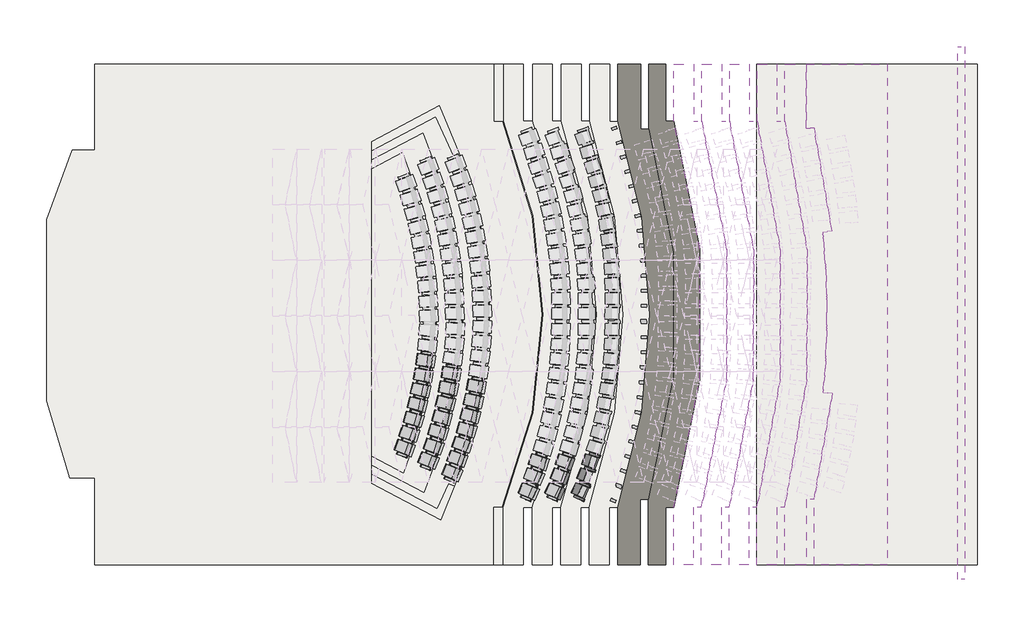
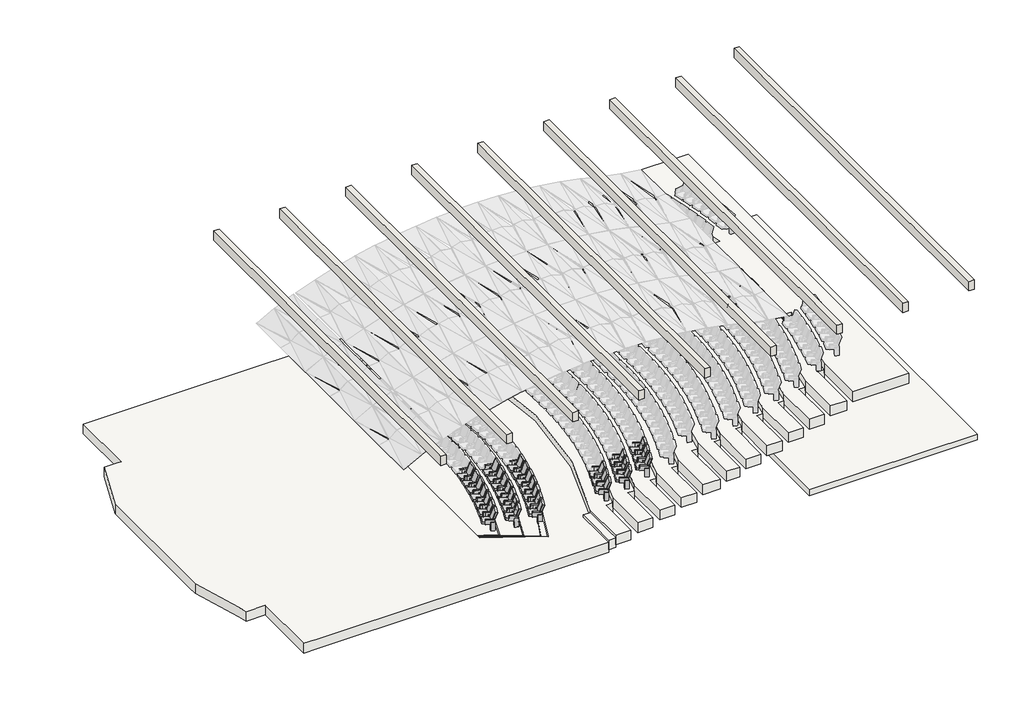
# One storey, part 1 of 5: 30 furniture elements, 19 slabs, 1 wall.
"""IFC4 building model written with IfcOpenShell, lengths in millimetres."""

from ifc_helpers import new_model, si_unit, point, frame, frame_2d, origin, place, context, project, spatial, polyline, circle_curve, trimmed, segment, composite_curve, outline, extrude, transform, mapped, element, save
from ifc_brep_helpers import plane_surface, cylinder_surface, revolved_surface, advanced_brep
from components import flex_6035_revit_flex_6035_revit_dbd431f0, walls_2_walls_2_07e35d9b

model = new_model("IFC4")

# Units and contexts
model_context = context("Model", 3, world=origin())
ifc_project = project(units=[si_unit("LENGTHUNIT", "METRE", prefix="MILLI")], contexts=[model_context])

# Site, building, storey
site = spatial("IfcSite", under=ifc_project)
building = spatial("IfcBuilding", under=site)
storey = spatial("IfcBuildingStorey", under=building, Name="0 WYSOKI PARTER", Elevation=0.0)

# Furniture
placement = place(None, origin())
flex_6035_revit_flex_6035_revit_shape = flex_6035_revit_flex_6035_revit_dbd431f0(model_context)
element("IfcFurniture", 1, ObjectType="flex_6035 revit : flex_6035 revit", at=placement, inside=storey, context=model_context, shape_type="MappedRepresentation", body=[
    mapped(flex_6035_revit_flex_6035_revit_shape, transform((138306.8914362, 51463.6049099, -340.0), x_axis=(-0.3842609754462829, -0.9232245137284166, 0.0), y_axis=(0.9232245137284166, -0.3842609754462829, 0.0), z_axis=(0.0, 0.0, 1.0))),
])
element("IfcFurniture", 2, ObjectType="flex_6035 revit : flex_6035 revit", at=placement, inside=storey, context=model_context, shape_type="MappedRepresentation", body=[
    mapped(flex_6035_revit_flex_6035_revit_shape, transform((138500.1927198, 51993.5391145, -340.0), x_axis=(-0.35215506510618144, -0.9359416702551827, 0.0), y_axis=(0.9359416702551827, -0.35215506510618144, 0.0), z_axis=(0.0, 0.0, 1.0))),
])
element("IfcFurniture", 3, ObjectType="flex_6035 revit : flex_6035 revit", at=placement, inside=storey, context=model_context, shape_type="MappedRepresentation", body=[
    mapped(flex_6035_revit_flex_6035_revit_shape, transform((138683.9323529, 52526.6960684, -340.0), x_axis=(-0.31962920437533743, -0.9475427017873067, 0.0), y_axis=(0.9475427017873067, -0.31962920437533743, 0.0), z_axis=(0.0, 0.0, 1.0))),
])
element("IfcFurniture", 4, ObjectType="flex_6035 revit : flex_6035 revit", at=placement, inside=storey, context=model_context, shape_type="MappedRepresentation", body=[
    mapped(flex_6035_revit_flex_6035_revit_shape, transform((138985.7702734, 53613.6020159, -340.0), x_axis=(-0.2534732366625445, -0.9673423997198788, 0.0), y_axis=(0.9673423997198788, -0.2534732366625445, 0.0), z_axis=(0.0, 0.0, 1.0))),
])
element("IfcFurniture", 5, ObjectType="flex_6035 revit : flex_6035 revit", at=placement, inside=storey, context=model_context, shape_type="MappedRepresentation", body=[
    mapped(flex_6035_revit_flex_6035_revit_shape, transform((139102.5153345, 54165.5460439, -340.0), x_axis=(-0.21992202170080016, -0.9755174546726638, 0.0), y_axis=(0.9755174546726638, -0.21992202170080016, 0.0), z_axis=(0.0, 0.0, 1.0))),
])
element("IfcFurniture", 6, ObjectType="flex_6035 revit : flex_6035 revit", at=placement, inside=storey, context=model_context, shape_type="MappedRepresentation", body=[
    mapped(flex_6035_revit_flex_6035_revit_shape, transform((139209.9615676, 54719.1225661, -340.0), x_axis=(-0.18610854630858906, -0.9825291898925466, 0.0), y_axis=(0.9825291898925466, -0.18610854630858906, 0.0), z_axis=(0.0, 0.0, 1.0))),
])
element("IfcFurniture", 7, ObjectType="flex_6035 revit : flex_6035 revit", at=placement, inside=storey, context=model_context, shape_type="MappedRepresentation", body=[
    mapped(flex_6035_revit_flex_6035_revit_shape, transform((138847.5809617, 53079.6018443, -340.0), x_axis=(-0.2863657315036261, -0.9581203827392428, 0.0), y_axis=(0.9581203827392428, -0.2863657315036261, 0.0), z_axis=(0.0, 0.0, 1.0))),
])
element("IfcFurniture", 8, ObjectType="flex_6035 revit : flex_6035 revit", at=placement, inside=storey, context=model_context, shape_type="MappedRepresentation", body=[
    mapped(flex_6035_revit_flex_6035_revit_shape, transform((137416.6458286, 51925.2859789, -510.0), x_axis=(-0.3665486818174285, -0.9303988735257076, 0.0), y_axis=(0.9303988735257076, -0.3665486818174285, 0.0), z_axis=(0.0, 0.0, 1.0))),
])
element("IfcFurniture", 9, ObjectType="flex_6035 revit : flex_6035 revit", at=placement, inside=storey, context=model_context, shape_type="MappedRepresentation", body=[
    mapped(flex_6035_revit_flex_6035_revit_shape, transform((137608.5867574, 52455.545604, -510.0), x_axis=(-0.33420561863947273, -0.9425001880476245, 0.0), y_axis=(0.9425001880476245, -0.33420561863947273, 0.0), z_axis=(0.0, 0.0, 1.0))),
])
element("IfcFurniture", 10, ObjectType="flex_6035 revit : flex_6035 revit", at=placement, inside=storey, context=model_context, shape_type="MappedRepresentation", body=[
    mapped(flex_6035_revit_flex_6035_revit_shape, transform((137927.1526788, 53537.6668647, -510.0), x_axis=(-0.26836290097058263, -0.9633178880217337, 0.0), y_axis=(0.9633178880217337, -0.26836290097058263, 0.0), z_axis=(0.0, 0.0, 1.0))),
])
element("IfcFurniture", 11, ObjectType="flex_6035 revit : flex_6035 revit", at=placement, inside=storey, context=model_context, shape_type="MappedRepresentation", body=[
    mapped(flex_6035_revit_flex_6035_revit_shape, transform((138052.3967671, 54087.7446207, -510.0), x_axis=(-0.2349417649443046, -0.9720094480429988, 0.0), y_axis=(0.9720094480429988, -0.2349417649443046, 0.0), z_axis=(0.0, 0.0, 1.0))),
])
element("IfcFurniture", 12, ObjectType="flex_6035 revit : flex_6035 revit", at=placement, inside=storey, context=model_context, shape_type="MappedRepresentation", body=[
    mapped(flex_6035_revit_flex_6035_revit_shape, transform((138168.3683123, 54639.5980973, -510.0), x_axis=(-0.2012404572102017, -0.9795418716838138, 0.0), y_axis=(0.9795418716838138, -0.2012404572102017, 0.0), z_axis=(0.0, 0.0, 1.0))),
])
element("IfcFurniture", 13, ObjectType="flex_6035 revit : flex_6035 revit", at=placement, inside=storey, context=model_context, shape_type="MappedRepresentation", body=[
    mapped(flex_6035_revit_flex_6035_revit_shape, transform((138266.7077454, 55195.0184869, -510.0), x_axis=(-0.16729916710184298, -0.9859061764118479, 0.0), y_axis=(0.9859061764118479, -0.16729916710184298, 0.0), z_axis=(0.0, 0.0, 1.0))),
])
element("IfcFurniture", 14, ObjectType="flex_6035 revit : flex_6035 revit", at=placement, inside=storey, context=model_context, shape_type="MappedRepresentation", body=[
    mapped(flex_6035_revit_flex_6035_revit_shape, transform((137780.7436478, 53005.8615762, -510.0), x_axis=(-0.3011092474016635, -0.953589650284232, 0.0), y_axis=(0.953589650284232, -0.3011092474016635, 0.0), z_axis=(0.0, 0.0, 1.0))),
])
element("IfcFurniture", 15, ObjectType="flex_6035 revit : flex_6035 revit", at=placement, inside=storey, context=model_context, shape_type="MappedRepresentation", body=[
    mapped(flex_6035_revit_flex_6035_revit_shape, transform((136524.2455694, 52398.1326173, -680.0), x_axis=(-0.3513253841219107, -0.9362534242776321, 0.0), y_axis=(0.9362534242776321, -0.3513253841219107, 0.0), z_axis=(0.0, 0.0, 1.0))),
])
element("IfcFurniture", 16, ObjectType="flex_6035 revit : flex_6035 revit", at=placement, inside=storey, context=model_context, shape_type="MappedRepresentation", body=[
    mapped(flex_6035_revit_flex_6035_revit_shape, transform((136698.6588073, 52934.579884, -680.0), x_axis=(-0.3187892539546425, -0.9478256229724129, 0.0), y_axis=(0.9478256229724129, -0.3187892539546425, 0.0), z_axis=(0.0, 0.0, 1.0))),
])
element("IfcFurniture", 17, ObjectType="flex_6035 revit : flex_6035 revit", at=placement, inside=storey, context=model_context, shape_type="MappedRepresentation", body=[
    mapped(flex_6035_revit_flex_6035_revit_shape, transform((136863.4022636, 53473.9092674, -680.0), x_axis=(-0.2858729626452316, -0.9582675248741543, 0.0), y_axis=(0.9582675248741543, -0.2858729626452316, 0.0), z_axis=(0.0, 0.0, 1.0))),
])
element("IfcFurniture", 18, ObjectType="flex_6035 revit : flex_6035 revit", at=placement, inside=storey, context=model_context, shape_type="MappedRepresentation", body=[
    mapped(flex_6035_revit_flex_6035_revit_shape, transform((137126.559769, 54570.8225713, -680.0), x_axis=(-0.2190573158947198, -0.9757119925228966, 0.0), y_axis=(0.9757119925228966, -0.2190573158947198, 0.0), z_axis=(0.0, 0.0, 1.0))),
])
element("IfcFurniture", 19, ObjectType="flex_6035 revit : flex_6035 revit", at=placement, inside=storey, context=model_context, shape_type="MappedRepresentation", body=[
    mapped(flex_6035_revit_flex_6035_revit_shape, transform((137223.6853608, 55126.5547359, -680.0), x_axis=(-0.18523763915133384, -0.9826937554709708, 0.0), y_axis=(0.9826937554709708, -0.18523763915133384, 0.0), z_axis=(0.0, 0.0, 1.0))),
])
element("IfcFurniture", 20, ObjectType="flex_6035 revit : flex_6035 revit", at=placement, inside=storey, context=model_context, shape_type="MappedRepresentation", body=[
    mapped(flex_6035_revit_flex_6035_revit_shape, transform((137311.460145, 55683.5890672, -680.0), x_axis=(-0.15119706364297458, -0.9885036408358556, 0.0), y_axis=(0.9885036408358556, -0.15119706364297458, 0.0), z_axis=(0.0, 0.0, 1.0))),
])
element("IfcFurniture", 21, ObjectType="flex_6035 revit : flex_6035 revit", at=placement, inside=storey, context=model_context, shape_type="MappedRepresentation", body=[
    mapped(flex_6035_revit_flex_6035_revit_shape, transform((137007.3679238, 54032.2635929, -680.0), x_axis=(-0.25225576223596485, -0.9676605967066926, 0.0), y_axis=(0.9676605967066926, -0.25225576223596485, 0.0), z_axis=(0.0, 0.0, 1.0))),
])
element("IfcFurniture", 22, ObjectType="flex_6035 revit : flex_6035 revit", at=placement, inside=storey, context=model_context, shape_type="MappedRepresentation", body=[
    mapped(flex_6035_revit_flex_6035_revit_shape, transform((141380.4647791, 51329.6007272, 252.0), x_axis=(-0.3634563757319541, -0.9316112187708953, 0.0), y_axis=(0.9316112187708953, -0.3634563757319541, 0.0), z_axis=(0.0, 0.0, 1.0))),
])
element("IfcFurniture", 23, ObjectType="flex_6035 revit : flex_6035 revit", at=placement, inside=storey, context=model_context, shape_type="MappedRepresentation", body=[
    mapped(flex_6035_revit_flex_6035_revit_shape, transform((141561.831007, 51863.7373566, 252.0), x_axis=(-0.33107329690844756, -0.9436050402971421, 0.0), y_axis=(0.9436050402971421, -0.33107329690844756, 0.0), z_axis=(0.0, 0.0, 1.0))),
])
element("IfcFurniture", 24, ObjectType="flex_6035 revit : flex_6035 revit", at=placement, inside=storey, context=model_context, shape_type="MappedRepresentation", body=[
    mapped(flex_6035_revit_flex_6035_revit_shape, transform((141180.7652881, 50762.1583354, 252.0), x_axis=(-0.396766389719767, -0.9179196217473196, 0.0), y_axis=(0.9179196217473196, -0.396766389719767, 0.0), z_axis=(0.0, 0.0, 1.0))),
])
element("IfcFurniture", 25, ObjectType="flex_6035 revit : flex_6035 revit", at=placement, inside=storey, context=model_context, shape_type="MappedRepresentation", body=[
    mapped(flex_6035_revit_flex_6035_revit_shape, transform((142380.4651401, 51329.6007272, 516.0), x_axis=(-0.3634563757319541, -0.9316112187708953, 0.0), y_axis=(0.9316112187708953, -0.3634563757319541, 0.0), z_axis=(0.0, 0.0, 1.0))),
])
element("IfcFurniture", 26, ObjectType="flex_6035 revit : flex_6035 revit", at=placement, inside=storey, context=model_context, shape_type="MappedRepresentation", body=[
    mapped(flex_6035_revit_flex_6035_revit_shape, transform((142561.831368, 51863.7373566, 516.0), x_axis=(-0.33107329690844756, -0.9436050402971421, 0.0), y_axis=(0.9436050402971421, -0.33107329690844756, 0.0), z_axis=(0.0, 0.0, 1.0))),
])
element("IfcFurniture", 27, ObjectType="flex_6035 revit : flex_6035 revit", at=placement, inside=storey, context=model_context, shape_type="MappedRepresentation", body=[
    mapped(flex_6035_revit_flex_6035_revit_shape, transform((142180.7656491, 50762.1583354, 516.0), x_axis=(-0.396766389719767, -0.9179196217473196, 0.0), y_axis=(0.9179196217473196, -0.396766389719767, 0.0), z_axis=(0.0, 0.0, 1.0))),
])
element("IfcFurniture", 28, ObjectType="flex_6035 revit : flex_6035 revit", at=placement, inside=storey, context=model_context, shape_type="MappedRepresentation", body=[
    mapped(flex_6035_revit_flex_6035_revit_shape, transform((143380.4654673, 51329.6007272, 791.0), x_axis=(-0.3634563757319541, -0.9316112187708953, 0.0), y_axis=(0.9316112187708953, -0.3634563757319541, 0.0), z_axis=(0.0, 0.0, 1.0))),
])
element("IfcFurniture", 29, ObjectType="flex_6035 revit : flex_6035 revit", at=placement, inside=storey, context=model_context, shape_type="MappedRepresentation", body=[
    mapped(flex_6035_revit_flex_6035_revit_shape, transform((143561.8316952, 51863.7373566, 791.0), x_axis=(-0.33107329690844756, -0.9436050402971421, 0.0), y_axis=(0.9436050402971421, -0.33107329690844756, 0.0), z_axis=(0.0, 0.0, 1.0))),
])
element("IfcFurniture", 30, ObjectType="flex_6035 revit : flex_6035 revit", at=placement, inside=storey, context=model_context, shape_type="MappedRepresentation", body=[
    mapped(flex_6035_revit_flex_6035_revit_shape, transform((143180.7659763, 50762.1583354, 791.0), x_axis=(-0.396766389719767, -0.9179196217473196, 0.0), y_axis=(0.9179196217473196, -0.396766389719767, 0.0), z_axis=(0.0, 0.0, 1.0))),
])

# Slabs
element("IfcSlab", 31, ObjectType="Strop 30 cm", at=placement, inside=storey, context=model_context, shape_type="SweptSolid", body=[
    extrude(outline(polyline([(149719.8675635, 66815.8005963), (157993.8729089, 66815.8005963), (157993.8729089, 48015.8005963), (149719.8675635, 48015.8005963), (149719.8675635, 66815.8005963)])), frame((0.0, 0.0, -1020.0), z_axis=(0.0, 0.0, 1.0), x_axis=(1.0, 0.0, 0.0)), (0.0, 0.0, 1.0), 300.0),
])
element("IfcSlab", 32, ObjectType="Strop 50 cm", at=placement, inside=storey, context=model_context, shape_type="AdvancedBrep", body=[
    advanced_brep(
    [(124863.8729089, 48015.8005963, -500.0), (124863.8729089, 51285.8005963, -500.0), (123927.3541376, 51285.8005963, -500.0), (123795.2039669, 51725.8005963, -500.0), (123063.8729089, 54160.8005963, -500.0), (123063.8729089, 54669.8605963, -500.0), (123063.8729089, 60980.5910359, -500.0), (124032.8926247, 63590.8005963, -500.0), (124715.5721701, 63590.8005963, -500.0), (124863.8729089, 63590.8005963, -500.0), (124863.8729089, 66815.8005963, -500.0), (125453.8729089, 66815.8005963, -500.0), (131133.8729089, 66815.8005963, -500.0), (131753.8729089, 66815.8005963, -500.0), (133003.8729089, 66815.8005963, -500.0), (133153.8729089, 66815.8005963, -500.0), (139864.830476, 66815.8005963, -500.0), (139864.830476, 64665.8005963, -500.0), (140154.3224305, 64665.8005963, -500.0), (140136.81884, 50165.8005963, -500.0), (139852.1865968, 50165.8005963, -500.0), (139852.1865968, 48015.8005963, -500.0), (133153.8729089, 48015.8005963, -500.0), (133003.8729089, 48015.8005963, -500.0), (131733.8729089, 48015.8005963, -500.0), (131133.8729089, 48015.8005963, -500.0), (125503.8729089, 48015.8005963, -500.0), (135270.2729089, 51071.7474551, -500.0), (137847.8229718, 49700.5398102, -500.0), (137803.2953199, 65255.8839435, -500.0), (135270.2729089, 63908.3641632, -500.0), (124863.8729089, 48015.8005963, 0.0), (125503.8729089, 48015.8005963, 0.0), (131133.8729089, 48015.8005963, 0.0), (131733.8729089, 48015.8005963, 0.0), (133003.8729089, 48015.8005963, 0.0), (133153.8729089, 48015.8005963, 0.0), (139852.1865968, 48015.8005963, 0.0), (139852.1865968, 50165.8005963, 0.0), (140136.81884, 50165.8005963, 0.0), (140154.3224305, 64665.8005963, 0.0), (139864.830476, 64665.8005963, 0.0), (139864.830476, 66815.8005963, 0.0), (133153.8729089, 66815.8005963, 0.0), (133003.8729089, 66815.8005963, 0.0), (131753.8729089, 66815.8005963, 0.0), (131133.8729089, 66815.8005963, 0.0), (125453.8729089, 66815.8005963, 0.0), (124863.8729089, 66815.8005963, 0.0), (124863.8729089, 63590.8005963, 0.0), (124715.5721701, 63590.8005963, 0.0), (124032.8926247, 63590.8005963, 0.0), (123063.8729089, 60980.5910359, 0.0), (123063.8729089, 54669.8605963, 0.0), (123063.8729089, 54160.8005963, 0.0), (123795.2039669, 51725.8005963, 0.0), (123927.3541376, 51285.8005963, 0.0), (124863.8729089, 51285.8005963, 0.0), (135270.2729089, 51071.7474551, 0.0), (135270.2729089, 63908.3641632, 0.0), (137803.2953199, 65255.8839435, 0.0), (137847.8229718, 49700.5398102, 0.0)],
    [
        (0, 1),
        (1, 2),
        (2, 3),
        (3, 4),
        (4, 5),
        (5, 6),
        (6, 7),
        (7, 8),
        (8, 9),
        (9, 10),
        (10, 11),
        (11, 12),
        (12, 13),
        (13, 14),
        (14, 15),
        (15, 16),
        (16, 17),
        (17, 18),
        (18, 19, circle_curve(frame((123353.8729089, 57436.0705963, -500.0), z_axis=(0.0, 0.0, -1.0), x_axis=(1.0, 0.0, 0.0)), 18290.0)),
        (19, 20),
        (20, 21),
        (21, 22),
        (22, 23),
        (23, 24),
        (24, 25),
        (25, 26),
        (26, 0),
        (27, 28),
        (28, 29, circle_curve(frame((123103.8729089, 57436.0705963, -500.0), z_axis=(0.0, 0.0, 1.0), x_axis=(1.0, 0.0, 0.0)), 16650.0)),
        (29, 30),
        (30, 27),
        (31, 32),
        (32, 33),
        (33, 34),
        (34, 35),
        (35, 36),
        (36, 37),
        (37, 38),
        (38, 39),
        (39, 40, circle_curve(frame((123353.8729089, 57436.0705963, 0.0), z_axis=(0.0, 0.0, 1.0), x_axis=(1.0, 0.0, 0.0)), 18290.0)),
        (40, 41),
        (41, 42),
        (42, 43),
        (43, 44),
        (44, 45),
        (45, 46),
        (46, 47),
        (47, 48),
        (48, 49),
        (49, 50),
        (50, 51),
        (51, 52),
        (52, 53),
        (53, 54),
        (54, 55),
        (55, 56),
        (56, 57),
        (57, 31),
        (58, 59),
        (59, 60),
        (60, 61, circle_curve(frame((123103.8729089, 57436.0705963, 0.0), z_axis=(0.0, 0.0, -1.0), x_axis=(1.0, 0.0, 0.0)), 16650.0)),
        (61, 58),
        (21, 37),
        (31, 0),
        (10, 48),
        (42, 16),
        (41, 17),
        (40, 18),
        (39, 19),
        (38, 20),
        (27, 58),
        (61, 28),
        (60, 29),
        (59, 30),
        (57, 1),
        (56, 2),
        (54, 4),
        (52, 6),
        (51, 7),
        (49, 9),
    ],
    [
        plane_surface(frame((124863.8729089, 51285.8005963, -500.0), z_axis=(0.0, 0.0, -1.0), x_axis=(0.0, 1.0, 0.0))),
        plane_surface(frame((124863.8729089, 51285.8005963, 0.0), z_axis=(0.0, 0.0, 1.0), x_axis=(0.0, -1.0, 0.0))),
        plane_surface(frame((139852.1865968, 48015.8005963, -500.0), z_axis=(0.0, -1.0, 0.0), x_axis=(0.0, 0.0, 1.0))),
        plane_surface(frame((124863.8729089, 66815.8005963, -500.0), z_axis=(0.0, 1.0, 0.0), x_axis=(0.0, 0.0, 1.0))),
        plane_surface(frame((139864.830476, 66815.8005963, -500.0), z_axis=(1.0, 0.0, 0.0), x_axis=(0.0, 0.0, 1.0))),
        plane_surface(frame((139864.830476, 64665.8005963, -500.0), z_axis=(0.0, 1.0, 0.0), x_axis=(0.0, 0.0, 1.0))),
        cylinder_surface(frame((123353.8729089, 57436.0705963, 0.0), z_axis=(0.0, 0.0, -1.0), x_axis=(1.0, 0.0, 0.0)), 18290.0),
        plane_surface(frame((140136.81884, 50165.8005963, -500.0), z_axis=(0.0, -1.0, 0.0), x_axis=(0.0, 0.0, 1.0))),
        plane_surface(frame((139852.1865968, 50165.8005963, -500.0), z_axis=(1.0, 0.0, 0.0), x_axis=(0.0, 0.0, 1.0))),
        plane_surface(frame((135270.2729089, 51071.7474551, -500.0), z_axis=(0.46965845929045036, 0.8828481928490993, 0.0), x_axis=(0.0, 0.0, 1.0))),
        revolved_surface(polyline([(139753.8729089, 57436.0705963, 0.0), (139753.8729089, 57436.0705963, -500.0)]), (123103.8729089, 57436.0705963, 0.0), (0.0, 0.0, 1.0)),
        plane_surface(frame((137803.2953199, 65255.8839435, -500.0), z_axis=(0.4696584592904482, -0.8828481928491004, 0.0), x_axis=(0.0, 0.0, 1.0))),
        plane_surface(frame((135270.2729089, 63908.3641632, -500.0), z_axis=(1.0, 0.0, 0.0), x_axis=(0.0, 0.0, 1.0))),
        plane_surface(frame((124863.8729089, 48015.8005963, -500.0), z_axis=(-1.0, 0.0, 0.0), x_axis=(0.0, 0.0, 1.0))),
        plane_surface(frame((124863.8729089, 51285.8005963, -500.0), z_axis=(0.0, -1.0, 0.0), x_axis=(0.0, 0.0, 1.0))),
        plane_surface(frame((123927.3541376, 51285.8005963, -500.0), z_axis=(-0.9577362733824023, -0.2876477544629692, 0.0), x_axis=(0.0, 0.0, 1.0))),
        plane_surface(frame((123063.8729089, 54160.8005963, -500.0), z_axis=(-1.0, 0.0, 0.0), x_axis=(0.0, 0.0, 1.0))),
        plane_surface(frame((123063.8729089, 60980.5910359, -500.0), z_axis=(-0.9374823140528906, 0.34803291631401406, 0.0), x_axis=(0.0, 0.0, 1.0))),
        plane_surface(frame((124032.8926247, 63590.8005963, -500.0), z_axis=(0.0, 1.0, 0.0), x_axis=(0.0, 0.0, 1.0))),
        plane_surface(frame((124863.8729089, 63590.8005963, -500.0), z_axis=(-1.0, 0.0, 0.0), x_axis=(0.0, 0.0, 1.0))),
    ],
    [
        (0, [[1, 2, 3, 4, 5, 6, 7, 8, 9, 10, 11, 12, 13, 14, 15, 16, 17, 18, 19, 20, 21, 22, 23, 24, 25, 26, 27], [28, 29, 30, 31]]),
        (1, [[32, 33, 34, 35, 36, 37, 38, 39, 40, 41, 42, 43, 44, 45, 46, 47, 48, 49, 50, 51, 52, 53, 54, 55, 56, 57, 58], [59, 60, 61, 62]]),
        (2, [[-27, -26, -25, -24, -23, -22, 63, -37, -36, -35, -34, -33, -32, 64]]),
        (3, [[-16, -15, -14, -13, -12, -11, 65, -48, -47, -46, -45, -44, -43, 66]]),
        (4, [[-17, -66, -42, 67]]),
        (5, [[-18, -67, -41, 68]]),
        (6, [[-19, -68, -40, 69]]),
        (7, [[-20, -69, -39, 70]]),
        (8, [[-21, -70, -38, -63]]),
        (9, [[-28, 71, -62, 72]]),
        (10, [[-29, -72, -61, 73]]),
        (11, [[-30, -73, -60, 74]]),
        (12, [[-31, -74, -59, -71]]),
        (13, [[-1, -64, -58, 75]]),
        (14, [[-2, -75, -57, 76]]),
        (15, [[-4, -3, -76, -56, -55, 77]]),
        (16, [[-6, -5, -77, -54, -53, 78]]),
        (17, [[-7, -78, -52, 79]]),
        (18, [[-9, -8, -79, -51, -50, 80]]),
        (19, [[-10, -80, -49, -65]]),
    ],
),
])
element("IfcSlab", 33, ObjectType="Strop 50 cm", at=placement, inside=storey, context=model_context, shape_type="SweptSolid", body=[
    extrude(outline(composite_curve([segment(polyline([(136475.1755106, 51450.1899815), (135270.2729089, 52091.1752653), (135270.2729089, 62888.9363529), (136435.8620926, 63509.0076456)]), True, "CONTINUOUS"), segment(trimmed(circle_curve(frame_2d((123103.8729089, 57436.0705963)), 14650.0), [point((136435.8620926, 63509.0076456))], [point((136475.1755106, 51450.1899815))], False, "CARTESIAN"), True, "CONTINUOUS")], self_intersect=False)), frame((0.0, 0.0, -1180.0), z_axis=(0.0, 0.0, 1.0), x_axis=(1.0, 0.0, 0.0)), (0.0, 0.0, 1.0), 500.0),
])
element("IfcSlab", 34, ObjectType="Strop 50 cm", at=placement, inside=storey, context=model_context, shape_type="SweptSolid", body=[
    extrude(outline(composite_curve([segment(polyline([(137233.367196, 50707.0371448), (135270.2729089, 51751.3659952), (135270.2729089, 52091.1752653), (136475.1755106, 51450.1899815)]), True, "CONTINUOUS"), segment(trimmed(circle_curve(frame_2d((123103.8729089, 57436.0705963)), 14650.0), [point((136475.1755106, 51450.1899815))], [point((136435.8620926, 63509.0076456))], True, "CARTESIAN"), True, "CONTINUOUS"), segment(polyline([(136435.8620926, 63509.0076456), (135270.2729089, 62888.9363529), (135270.2729089, 63228.745623), (137192.084304, 64251.1127595)]), True, "CONTINUOUS"), segment(trimmed(circle_curve(frame_2d((123103.8729089, 57436.0705963)), 15650.0), [point((137192.084304, 64251.1127595))], [point((137233.367196, 50707.0371448))], False, "CARTESIAN"), True, "CONTINUOUS")], self_intersect=False)), frame((0.0, 0.0, -1010.0), z_axis=(0.0, 0.0, 1.0), x_axis=(1.0, 0.0, 0.0)), (0.0, 0.0, 1.0), 500.0),
])
element("IfcSlab", 35, ObjectType="Strop 50 cm", at=placement, inside=storey, context=model_context, shape_type="SweptSolid", body=[
    extrude(outline(composite_curve([segment(trimmed(circle_curve(frame_2d((123103.8729089, 57436.0705963)), 16650.0), [point((137803.2953199, 65255.8839435))], [point((137847.8229718, 49700.5398102))], False, "CARTESIAN"), True, "CONTINUOUS"), segment(polyline([(137847.8229718, 49700.5398102), (135270.2729089, 51071.7474551), (135270.2729089, 51751.3659952), (137233.367196, 50707.0371448)]), True, "CONTINUOUS"), segment(trimmed(circle_curve(frame_2d((123103.8729089, 57436.0705963)), 15650.0), [point((137233.367196, 50707.0371448))], [point((137192.084304, 64251.1127595))], True, "CARTESIAN"), True, "CONTINUOUS"), segment(polyline([(137192.084304, 64251.1127595), (135270.2729089, 63228.745623), (135270.2729089, 63908.3641632), (137803.2953199, 65255.8839435)]), True, "CONTINUOUS")], self_intersect=False)), frame((0.0, 0.0, -840.0), z_axis=(0.0, 0.0, 1.0), x_axis=(1.0, 0.0, 0.0)), (0.0, 0.0, 1.0), 500.0),
])
element("IfcSlab", 36, ObjectType="Strop 50 cm", at=placement, inside=storey, context=model_context, shape_type="SweptSolid", body=[
    extrude(outline(composite_curve([segment(trimmed(circle_curve(frame_2d((123103.8729089, 57436.0705963)), 16650.0), [point((138436.8577178, 50945.9182985))], [point((137847.8229718, 49700.5398102))], False, "CARTESIAN"), True, "CONTINUOUS"), segment(polyline([(137847.8229718, 49700.5398102), (135270.2729089, 51071.7474551), (135270.2729089, 51411.5567251), (137719.8870418, 50108.4085635)]), True, "CONTINUOUS"), segment(trimmed(circle_curve(frame_2d((123103.8729089, 57436.0705963)), 16350.0), [point((137719.8870418, 50108.4085635))], [point((138159.8852765, 51061.1987085))], True, "CARTESIAN"), True, "CONTINUOUS"), segment(polyline([(138159.8852765, 51061.1987085), (138436.8577178, 50945.9182985)]), True, "CONTINUOUS")], self_intersect=False)), frame((0.0, 0.0, -675.0), z_axis=(0.0, 0.0, 1.0), x_axis=(1.0, 0.0, 0.0)), (0.0, 0.0, 1.0), 500.0),
    extrude(outline(composite_curve([segment(trimmed(circle_curve(frame_2d((123103.8729089, 57436.0705963)), 16650.0), [point((137803.2953199, 65255.8839435))], [point((138622.3387521, 63469.2884668))], False, "CARTESIAN"), True, "CONTINUOUS"), segment(polyline([(138622.3387521, 63469.2884668), (138342.7267549, 63360.5818385)]), True, "CONTINUOUS"), segment(trimmed(circle_curve(frame_2d((123103.8729089, 57436.0705963)), 16350.0), [point((138342.7267549, 63360.5818385))], [point((137676.9083378, 64848.839201))], True, "CARTESIAN"), True, "CONTINUOUS"), segment(polyline([(137676.9083378, 64848.839201), (135270.2729089, 63568.5548931), (135270.2729089, 63908.3641632), (137803.2953199, 65255.8839435)]), True, "CONTINUOUS")], self_intersect=False)), frame((0.0, 0.0, -675.0), z_axis=(0.0, 0.0, 1.0), x_axis=(1.0, 0.0, 0.0)), (0.0, 0.0, 1.0), 500.0),
])
element("IfcSlab", 37, ObjectType="Strop 50 cm", at=placement, inside=storey, context=model_context, shape_type="SweptSolid", body=[
    extrude(outline(composite_curve([segment(polyline([(140946.1252529, 50165.8005963), (140946.1252529, 48015.8005963), (140202.1865968, 48015.8005963), (140202.1865968, 50165.8005963)]), True, "CONTINUOUS"), segment(trimmed(circle_curve(frame_2d((123353.8729089, 57436.0705963)), 18350.0), [point((140202.1865968, 50165.8005963))], [point((140214.830476, 64676.9690158))], True, "CARTESIAN"), True, "CONTINUOUS"), segment(polyline([(140214.830476, 64676.9690158), (140214.830476, 66815.8005963), (140958.769132, 66815.8005963), (140958.769132, 64665.8005963), (141302.5080695, 64665.8005963)]), True, "CONTINUOUS"), segment(trimmed(circle_curve(frame_2d((123353.8729089, 57436.0705963)), 19350.0), [point((141302.5080695, 64665.8005963))], [point((141286.1252529, 50165.8005963))], False, "CARTESIAN"), True, "CONTINUOUS"), segment(polyline([(141286.1252529, 50165.8005963), (140946.1252529, 50165.8005963)]), True, "CONTINUOUS")], self_intersect=False)), frame((0.0, 0.0, -248.0), z_axis=(0.0, 0.0, 1.0), x_axis=(1.0, 0.0, 0.0)), (0.0, 0.0, 1.0), 500.0),
])
element("IfcSlab", 38, ObjectType="Strop 50 cm", at=placement, inside=storey, context=model_context, shape_type="SweptSolid", body=[
    extrude(outline(composite_curve([segment(polyline([(142043.5069266, 64665.8005963), (142376.3202837, 64665.8005963)]), True, "CONTINUOUS"), segment(trimmed(circle_curve(frame_2d((123353.8729089, 57436.0705963)), 20350.0), [point((142376.3202837, 64665.8005963))], [point((142360.8630475, 50165.8005963))], False, "CARTESIAN"), True, "CONTINUOUS"), segment(polyline([(142360.8630475, 50165.8005963), (142030.8630475, 50165.8005963), (142030.8630475, 48015.8005963), (141286.1252529, 48015.8005963), (141286.1252529, 50165.8005963)]), True, "CONTINUOUS"), segment(trimmed(circle_curve(frame_2d((123353.8729089, 57436.0705963)), 19350.0), [point((141286.1252529, 50165.8005963))], [point((141298.769132, 64675.0760213))], True, "CARTESIAN"), True, "CONTINUOUS"), segment(polyline([(141298.769132, 64675.0760213), (141298.769132, 66815.8005963), (142043.5069266, 66815.8005963), (142043.5069266, 64665.8005963)]), True, "CONTINUOUS")], self_intersect=False)), frame((0.0, 0.0, 16.0), z_axis=(0.0, 0.0, 1.0), x_axis=(1.0, 0.0, 0.0)), (0.0, 0.0, 1.0), 500.0),
])
element("IfcSlab", 39, ObjectType="Strop 50 cm", at=placement, inside=storey, context=model_context, shape_type="SweptSolid", body=[
    extrude(outline(composite_curve([segment(trimmed(circle_curve(frame_2d((123353.8729089, 57436.0705963)), 21350.0), [point((143442.5140807, 64665.8005963))], [point((143427.8778438, 50165.8005963))], False, "CARTESIAN"), True, "CONTINUOUS"), segment(polyline([(143427.8778438, 50165.8005963), (143107.8778438, 50165.8005963), (143107.8778438, 48015.8005963), (142360.8630475, 48015.8005963), (142360.8630475, 50165.8005963)]), True, "CONTINUOUS"), segment(trimmed(circle_curve(frame_2d((123353.8729089, 57436.0705963)), 20350.0), [point((142360.8630475, 50165.8005963))], [point((142373.5069266, 64673.1986063))], True, "CARTESIAN"), True, "CONTINUOUS"), segment(polyline([(142373.5069266, 64673.1986063), (142373.5069266, 66815.8005963), (143120.521723, 66815.8005963), (143120.521723, 64665.8005963), (143442.5140807, 64665.8005963)]), True, "CONTINUOUS")], self_intersect=False)), frame((0.0, 0.0, 291.0), z_axis=(0.0, 0.0, 1.0), x_axis=(1.0, 0.0, 0.0)), (0.0, 0.0, 1.0), 500.0),
])
element("IfcSlab", 40, ObjectType="Strop 50 cm", at=placement, inside=storey, context=model_context, shape_type="SweptSolid", body=[
    extrude(outline(composite_curve([segment(trimmed(circle_curve(frame_2d((123353.8729089, 57436.0705963)), 21350.0), [point((143427.8778438, 50165.8005963))], [point((143440.521723, 64671.3342004))], True, "CARTESIAN"), True, "CONTINUOUS"), segment(polyline([(143440.521723, 64671.3342004), (143440.521723, 66815.8005963), (144190.9832854, 66815.8005963), (144190.9832854, 64664.3596942), (144502.7342664, 64664.3596942)]), True, "CONTINUOUS"), segment(trimmed(circle_curve(frame_2d((123353.8729089, 57436.0705963)), 22350.0), [point((144502.7342664, 64664.3596942))], [point((144488.8350226, 50167.2414984))], False, "CARTESIAN"), True, "CONTINUOUS"), segment(polyline([(144488.8350226, 50167.2414984), (144178.3394063, 50167.2414984), (144178.3394063, 48015.8005963), (143427.8778438, 48015.8005963), (143427.8778438, 50165.8005963)]), True, "CONTINUOUS")], self_intersect=False)), frame((0.0, 0.0, 574.0), z_axis=(0.0, 0.0, 1.0), x_axis=(1.0, 0.0, 0.0)), (0.0, 0.0, 1.0), 500.0),
])
element("IfcSlab", 41, ObjectType="Strop 50 cm", at=placement, inside=storey, context=model_context, shape_type="SweptSolid", body=[
    extrude(outline(composite_curve([segment(trimmed(circle_curve(frame_2d((123353.8729089, 57436.0705963)), 22350.0), [point((144488.3394063, 50165.8005963))], [point((144500.9832854, 64669.4807689))], True, "CARTESIAN"), True, "CONTINUOUS"), segment(polyline([(144500.9832854, 64669.4807689), (144500.9832854, 66815.8005963), (145351.3769603, 66815.8005963), (145351.3769603, 64367.435042), (145651.3769603, 64367.435042)]), True, "CONTINUOUS"), segment(trimmed(circle_curve(frame_2d((123353.8729089, 57436.0705963)), 23350.0), [point((145651.3769603, 64367.435042))], [point((145638.7330811, 50464.16217))], False, "CARTESIAN"), True, "CONTINUOUS"), segment(polyline([(145638.7330811, 50464.16217), (145338.7330811, 50464.16217), (145338.7330811, 48015.8005963), (144488.3394063, 48015.8005963), (144488.3394063, 50165.8005963)]), True, "CONTINUOUS")], self_intersect=False)), frame((0.0, 0.0, 867.0), z_axis=(0.0, 0.0, 1.0), x_axis=(1.0, 0.0, 0.0)), (0.0, 0.0, 1.0), 500.0),
])
element("IfcSlab", 42, ObjectType="Strop 50 cm", at=placement, inside=storey, context=model_context, shape_type="SweptSolid", body=[
    extrude(outline(composite_curve([segment(polyline([(146305.8299046, 66815.8005963), (146305.8299046, 64665.8005963), (146605.8299046, 64665.8005963)]), True, "CONTINUOUS"), segment(trimmed(circle_curve(frame_2d((123353.8729089, 57436.0705963)), 24350.0), [point((146605.8299046, 64665.8005963))], [point((146593.1860254, 50165.8005963))], False, "CARTESIAN"), True, "CONTINUOUS"), segment(polyline([(146593.1860254, 50165.8005963), (146293.1860254, 50165.8005963), (146293.1860254, 48015.8005963), (145638.7330811, 48015.8005963), (145638.7330811, 50464.16217)]), True, "CONTINUOUS"), segment(trimmed(circle_curve(frame_2d((123353.8729089, 57436.0705963)), 23350.0), [point((145638.7330811, 50464.16217))], [point((145651.3769603, 64367.435042))], True, "CARTESIAN"), True, "CONTINUOUS"), segment(polyline([(145651.3769603, 64367.435042), (145651.3769603, 66815.8005963), (146305.8299046, 66815.8005963)]), True, "CONTINUOUS")], self_intersect=False)), frame((0.0, 0.0, 1168.0), z_axis=(0.0, 0.0, 1.0), x_axis=(1.0, 0.0, 0.0)), (0.0, 0.0, 1.0), 500.0),
])
element("IfcSlab", 43, ObjectType="Strop 50 cm", at=placement, inside=storey, context=model_context, shape_type="SweptSolid", body=[
    extrude(outline(composite_curve([segment(trimmed(circle_curve(frame_2d((123353.8729089, 57436.0705963)), 24350.0), [point((146593.1860254, 50165.8005963))], [point((146605.8299046, 64665.8005963))], True, "CARTESIAN"), True, "CONTINUOUS"), segment(polyline([(146605.8299046, 64665.8005963), (146605.8299046, 66815.8005963), (147351.6083902, 66815.8005963), (147351.6083902, 64665.8005963), (147651.0641895, 64665.8005963)]), True, "CONTINUOUS"), segment(trimmed(circle_curve(frame_2d((123353.8729089, 57436.0705963)), 25350.0), [point((147651.0641895, 64665.8005963))], [point((147638.9645111, 50165.8005963))], False, "CARTESIAN"), True, "CONTINUOUS"), segment(polyline([(147638.9645111, 50165.8005963), (147338.9645111, 50165.8005963), (147338.9645111, 48015.8005963), (146593.1860254, 48015.8005963), (146593.1860254, 50165.8005963)]), True, "CONTINUOUS")], self_intersect=False)), frame((0.0, 0.0, 1477.0), z_axis=(0.0, 0.0, 1.0), x_axis=(1.0, 0.0, 0.0)), (0.0, 0.0, 1.0), 500.0),
])
element("IfcSlab", 44, ObjectType="Strop 50 cm", at=placement, inside=storey, context=model_context, shape_type="SweptSolid", body=[
    extrude(outline(composite_curve([segment(trimmed(circle_curve(frame_2d((123353.8729089, 57436.0705963)), 25350.0), [point((147638.9645111, 50165.8005963))], [point((147651.6083902, 64663.9714312))], True, "CARTESIAN"), True, "CONTINUOUS"), segment(polyline([(147651.6083902, 64663.9714312), (147651.6083902, 66815.8005963), (148393.6894318, 66815.8005963), (148393.6894318, 64665.8005963), (148692.6476253, 64665.8005963)]), True, "CONTINUOUS"), segment(trimmed(circle_curve(frame_2d((123353.8729089, 57436.0705963)), 26350.0), [point((148692.6476253, 64665.8005963))], [point((148681.0455527, 50165.8005963))], False, "CARTESIAN"), True, "CONTINUOUS"), segment(polyline([(148681.0455527, 50165.8005963), (148381.0455527, 50165.8005963), (148381.0455527, 48015.8005963), (147638.9645111, 48015.8005963), (147638.9645111, 50165.8005963)]), True, "CONTINUOUS")], self_intersect=False)), frame((0.0, 0.0, 1793.0), z_axis=(0.0, 0.0, 1.0), x_axis=(1.0, 0.0, 0.0)), (0.0, 0.0, 1.0), 500.0),
])
element("IfcSlab", 45, ObjectType="Strop 50 cm", at=placement, inside=storey, context=model_context, shape_type="SweptSolid", body=[
    extrude(outline(composite_curve([segment(trimmed(circle_curve(frame_2d((123353.8729089, 57436.0705963)), 26350.0), [point((148681.0455527, 50165.8005963))], [point((148693.6894318, 64662.1482727))], True, "CARTESIAN"), True, "CONTINUOUS"), segment(polyline([(148693.6894318, 64662.1482727), (148693.6894318, 66815.8005963), (149432.5114427, 66815.8005963), (149432.5114427, 64665.8005963), (149731.0127108, 64665.8005963)]), True, "CONTINUOUS"), segment(trimmed(circle_curve(frame_2d((123353.8729089, 57436.0705963)), 27350.0), [point((149731.0127108, 64665.8005963))], [point((149719.8675635, 50165.8005963))], False, "CARTESIAN"), True, "CONTINUOUS"), segment(polyline([(149719.8675635, 50165.8005963), (149419.8675635, 50165.8005963), (149419.8675635, 48015.8005963), (148681.0455527, 48015.8005963), (148681.0455527, 50165.8005963)]), True, "CONTINUOUS")], self_intersect=False)), frame((0.0, 0.0, 2116.0), z_axis=(0.0, 0.0, 1.0), x_axis=(1.0, 0.0, 0.0)), (0.0, 0.0, 1.0), 500.0),
])
element("IfcSlab", 46, ObjectType="Strop 50 cm", at=placement, inside=storey, context=model_context, shape_type="SweptSolid", body=[
    extrude(outline(composite_curve([segment(polyline([(150468.4450802, 66815.8005963), (150468.4450802, 64665.8005963), (150766.5251726, 64665.8005963)]), True, "CONTINUOUS"), segment(trimmed(circle_curve(frame_2d((123353.8729089, 57436.0705963)), 28350.0), [point((150766.5251726, 64665.8005963))], [point((150755.801201, 50165.8005963))], False, "CARTESIAN"), True, "CONTINUOUS"), segment(polyline([(150755.801201, 50165.8005963), (150455.801201, 50165.8005963), (150455.801201, 48015.8005963), (149719.8675635, 48015.8005963), (149719.8675635, 50165.8005963)]), True, "CONTINUOUS"), segment(trimmed(circle_curve(frame_2d((123353.8729089, 57436.0705963)), 27350.0), [point((149719.8675635, 50165.8005963))], [point((149732.5114427, 64660.3303581))], True, "CARTESIAN"), True, "CONTINUOUS"), segment(polyline([(149732.5114427, 64660.3303581), (149732.5114427, 66815.8005963), (150468.4450802, 66815.8005963)]), True, "CONTINUOUS")], self_intersect=False)), frame((0.0, 0.0, 2445.0), z_axis=(0.0, 0.0, 1.0), x_axis=(1.0, 0.0, 0.0)), (0.0, 0.0, 1.0), 500.0),
])
element("IfcSlab", 47, ObjectType="Strop 50 cm", at=placement, inside=storey, context=model_context, shape_type="SweptSolid", body=[
    extrude(outline(composite_curve([segment(polyline([(150755.801201, 48015.8005963), (150755.801201, 50165.8005963)]), True, "CONTINUOUS"), segment(trimmed(circle_curve(frame_2d((123353.8729089, 57436.0705963)), 28350.0), [point((150755.801201, 50165.8005963))], [point((150768.4450802, 64658.5170424))], True, "CARTESIAN"), True, "CONTINUOUS"), segment(polyline([(150768.4450802, 64658.5170424), (150768.4450802, 66815.8005963), (151563.4969962, 66815.8005963), (151563.4969962, 64406.3405963), (151862.247719, 64406.3405963)]), True, "CONTINUOUS"), segment(trimmed(circle_curve(frame_2d((123352.5614296, 57433.5156535)), 29350.0), [point((151862.247719, 64406.3405963))], [point((152537.9725609, 60537.4288446))], False, "CARTESIAN"), True, "CONTINUOUS"), segment(polyline([(152537.9725609, 60537.4288446), (152190.1648253, 60500.5471794), (152203.016746, 60376.7553934), (152211.9095522, 60267.7907157), (152289.426054, 59317.9712348), (152297.6314441, 59217.429554), (152301.7563187, 59118.5095594), (152341.460112, 58166.3596431), (152345.6628959, 58065.5712776), (152345.8528442, 57966.5655008), (152347.6811825, 57013.5898917), (152347.8783151, 56910.8394347), (152344.2101813, 56813.7772018), (152308.2213649, 55861.4796331), (152304.5525057, 55764.3982038), (152296.5888301, 55661.9719679), (152213.2713604, 54590.36945), (152201.7508346, 54477.5450022), (152549.708023, 54442.0058669)]), True, "CONTINUOUS"), segment(trimmed(circle_curve(frame_2d((123352.5614296, 57433.5156535)), 29350.0), [point((152549.708023, 54442.0058669))], [point((151863.4969962, 50465.8005963))], False, "CARTESIAN"), True, "CONTINUOUS"), segment(polyline([(151863.4969962, 50465.8005963), (151563.4969962, 50465.8005963), (151563.4969962, 48015.8005963), (150755.801201, 48015.8005963)]), True, "CONTINUOUS")], self_intersect=False)), frame((0.0, 0.0, 2780.0), z_axis=(0.0, 0.0, 1.0), x_axis=(1.0, 0.0, 0.0)), (0.0, 0.0, 1.0), 500.0),
])
element("IfcSlab", 48, ObjectType="Strop 50 cm", at=placement, inside=storey, context=model_context, shape_type="SweptSolid", body=[
    extrude(outline(composite_curve([segment(polyline([(151863.4969962, 48015.8005963), (151863.4969962, 50465.8005963)]), True, "CONTINUOUS"), segment(trimmed(circle_curve(frame_2d((123352.5614296, 57433.5156535)), 29350.0), [point((151863.4969962, 50465.8005963))], [point((152549.708023, 54442.0058669))], True, "CARTESIAN"), True, "CONTINUOUS"), segment(polyline([(152549.708023, 54442.0058669), (152201.7508346, 54477.5450022), (152213.2713604, 54590.36945), (152296.5888301, 55661.9719679), (152304.5525057, 55764.3982038), (152308.2213649, 55861.4796331), (152344.2101813, 56813.7772018), (152347.8783151, 56910.8394347), (152347.6811825, 57013.5898917), (152345.8528442, 57966.5655008), (152345.6628959, 58065.5712776), (152341.460112, 58166.3596431), (152301.7563187, 59118.5095594), (152297.6314441, 59217.429554), (152289.426054, 59317.9712348), (152211.9095522, 60267.7907157), (152203.016746, 60376.7553934), (152190.1648253, 60500.5471794), (152537.9725609, 60537.4288446)]), True, "CONTINUOUS"), segment(trimmed(circle_curve(frame_2d((123352.5614296, 57433.5156535)), 29350.0), [point((152537.9725609, 60537.4288446))], [point((151862.247719, 64406.3405963))], True, "CARTESIAN"), True, "CONTINUOUS"), segment(polyline([(151862.247719, 64406.3405963), (151563.4969962, 64406.3405963), (151563.4969962, 66815.8005963), (154613.8729089, 66815.8005963), (154613.8729089, 48015.8005963), (151863.4969962, 48015.8005963)]), True, "CONTINUOUS")], self_intersect=False)), frame((0.0, 0.0, 3120.0), z_axis=(0.0, 0.0, 1.0), x_axis=(1.0, 0.0, 0.0)), (0.0, 0.0, 1.0), 500.0),
])
element("IfcSlab", 49, ObjectType="Strop 50 cm", at=placement, inside=storey, context=model_context, shape_type="SweptSolid", body=[
    extrude(outline(polyline([(140214.830476, 66815.8005963), (140214.830476, 64676.9690158), (139864.830476, 64676.9690158), (139864.830476, 66815.8005963), (140214.830476, 66815.8005963)])), frame((0.0, 0.0, -374.0), z_axis=(0.0, 0.0, 1.0), x_axis=(1.0, 0.0, 0.0)), (0.0, 0.0, 1.0), 500.0),
    extrude(outline(polyline([(139852.1865968, 50165.8005963), (140202.1865968, 50165.8005963), (140202.1865968, 48015.8005963), (139852.1865968, 48015.8005963), (139852.1865968, 50165.8005963)])), frame((0.0, 0.0, -374.0), z_axis=(0.0, 0.0, 1.0), x_axis=(1.0, 0.0, 0.0)), (0.0, 0.0, 1.0), 500.0),
])

# Wall
walls_2_walls_2_shape = walls_2_walls_2_07e35d9b(model_context)
element("IfcWall", 50, ObjectType="Walls 2 : Walls 2", at=placement, inside=storey, context=model_context, shape_type="MappedRepresentation", body=[
    mapped(walls_2_walls_2_shape, transform((0.0, 0.0, 0.0), x_axis=(1.0, 0.0, 0.0), y_axis=(0.0, 1.0, 0.0), z_axis=(0.0, 0.0, 1.0))),
])

save(model, "model.ifc")
